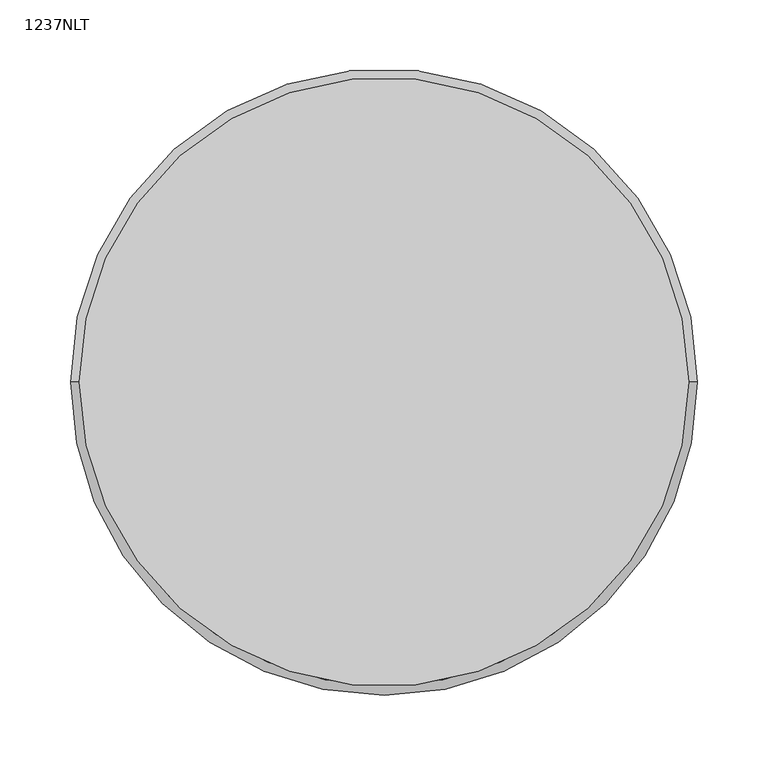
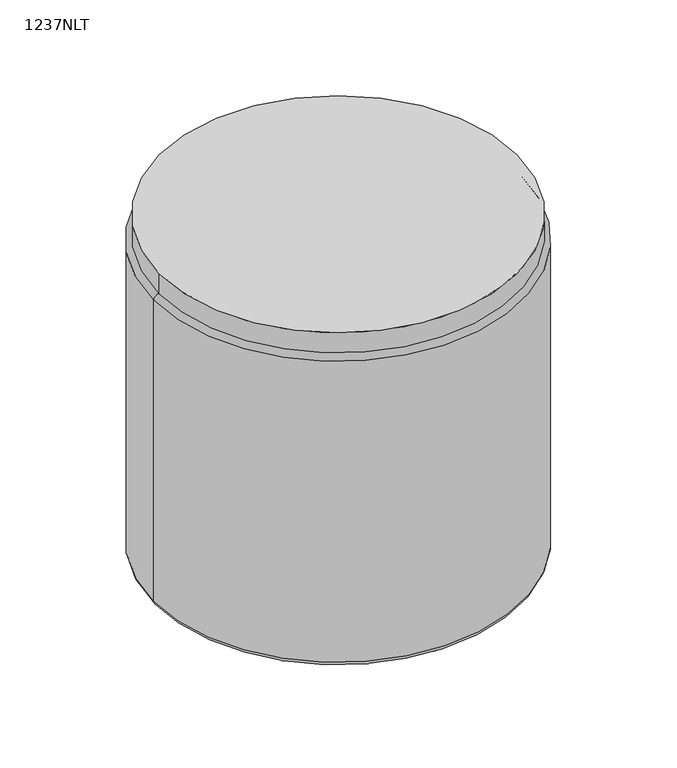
"""IFC4 building model written with IfcOpenShell, lengths in millimetres: furniture geometry, Laguna-Round_Ottomans-No_Legs-ERG : 1237NLT."""

from ifc_helpers import new_model, si_unit, point, frame, frame_2d, origin, place, context, project, spatial, circle_curve, ellipse_curve, trimmed, segment, composite_curve, outline, extrude, source, transform, mapped, element, save
from ifc_brep_helpers import plane_surface, cylinder_surface, revolved_surface, advanced_brep


def furniture_1237nlt_2b8f820f(model_context):
    return source(origin(), model_context, "Body", "SolidModel", [
        extrude(outline(composite_curve([segment(trimmed(circle_curve(frame_2d((-4662.7421763, 1234.1558502)), 215.9), [point((-4878.6421763, 1234.1558502))], [point((-4446.8421763, 1234.1558502))], False, "CARTESIAN"), True, "CONTINUOUS"), segment(trimmed(circle_curve(frame_2d((-4662.7421763, 1234.1558502)), 215.9), [point((-4446.8421763, 1234.1558502))], [point((-4878.6421763, 1234.1558502))], False, "CARTESIAN"), True, "CONTINUOUS")], self_intersect=False)), frame((0.0, 0.0, 406.4), z_axis=(0.0, 0.0, 1.0), x_axis=(1.0, 0.0, 0.0)), (0.0, 0.0, 1.0), 25.4),
        advanced_brep(
        [(-4472.2421763, 1234.1558502, 10.16), (-4476.4852245, 1234.1558502, 10.16), (-4467.9991282, 1234.1558502, 10.16), (-4458.1638229, 1234.1558502, 0.0), (-4486.3205297, 1234.1558502, 0.0), (-4472.2421763, 1234.1558502, 0.0), (-4458.1638229, 1234.1558502, 3.9615026), (-4486.3205297, 1234.1558502, 3.9615026), (-4467.9991282, 1234.1558502, 3.9615026), (-4476.4852245, 1234.1558502, 3.9615026)],
        [
            (0, 1),
            (1, 2, circle_curve(frame((-4472.2421763, 1234.1558502, 10.16), z_axis=(0.0, 0.0, 1.0), x_axis=(-1.0, 0.0, 0.0)), 4.2430482)),
            (2, 0),
            (2, 1, circle_curve(frame((-4472.2421763, 1234.1558502, 10.16), z_axis=(0.0, 0.0, 1.0), x_axis=(-1.0, 0.0, 0.0)), 4.2430482)),
            (3, 4, circle_curve(frame((-4472.2421763, 1234.1558502, 0.0), z_axis=(0.0, 0.0, -1.0), x_axis=(-1.0, 0.0, 0.0)), 14.0783534)),
            (4, 5),
            (5, 3),
            (4, 3, circle_curve(frame((-4472.2421763, 1234.1558502, 0.0), z_axis=(0.0, 0.0, -1.0), x_axis=(-1.0, 0.0, 0.0)), 14.0783534)),
            (6, 7, circle_curve(frame((-4472.2421763, 1234.1558502, 3.9615026), z_axis=(0.0, 0.0, -1.0), x_axis=(-1.0, 0.0, 0.0)), 14.0783534)),
            (7, 4),
            (3, 6),
            (7, 6, circle_curve(frame((-4472.2421763, 1234.1558502, 3.9615026), z_axis=(0.0, 0.0, -1.0), x_axis=(-1.0, 0.0, 0.0)), 14.0783534)),
            (8, 9, circle_curve(frame((-4472.2421763, 1234.1558502, 3.9615026), z_axis=(0.0, 0.0, -1.0), x_axis=(-1.0, 0.0, 0.0)), 4.2430482)),
            (9, 7),
            (6, 8),
            (9, 8, circle_curve(frame((-4472.2421763, 1234.1558502, 3.9615026), z_axis=(0.0, 0.0, -1.0), x_axis=(-1.0, 0.0, 0.0)), 4.2430482)),
            (1, 9),
            (8, 2),
        ],
        [
            plane_surface(frame((-4472.2421763, 1234.1558502, 10.16), z_axis=(0.0, 0.0, 1.0), x_axis=(-1.0, 0.0, 0.0))),
            plane_surface(frame((-4472.2421763, 1234.1558502, 0.0), z_axis=(0.0, 0.0, -1.0), x_axis=(-1.0, 0.0, 0.0))),
            cylinder_surface(frame((-4472.2421763, 1234.1558502, 80.01), z_axis=(0.0, 0.0, 1.0), x_axis=(-1.0, 0.0, 0.0)), 14.0783534),
            plane_surface(frame((-4472.2421763, 1234.1558502, 3.9615026), z_axis=(0.0, 0.0, 1.0), x_axis=(-1.0, 0.0, 0.0))),
            cylinder_surface(frame((-4472.2421763, 1234.1558502, 80.01), z_axis=(0.0, 0.0, 1.0), x_axis=(-1.0, 0.0, 0.0)), 4.2430482),
        ],
        [
            (0, [[1, 2, 3]]),
            (0, [[-3, 4, -1]]),
            (1, [[5, 6, 7]]),
            (1, [[8, -7, -6]]),
            (2, [[9, 10, -5, 11]]),
            (2, [[12, -11, -8, -10]]),
            (3, [[13, 14, -9, 15]]),
            (3, [[16, -15, -12, -14]]),
            (4, [[-2, 17, -13, 18]]),
            (4, [[-4, -18, -16, -17]]),
        ],
    ),
        advanced_brep(
        [(-4857.4852245, 1234.1558502, 3.9615026), (-4848.9991282, 1234.1558502, 3.9615026), (-4848.9991282, 1234.1558502, 10.16), (-4857.4852245, 1234.1558502, 10.16), (-4867.3205297, 1234.1558502, 3.9615026), (-4839.1638229, 1234.1558502, 3.9615026), (-4867.3205297, 1234.1558502, 0.0), (-4839.1638229, 1234.1558502, 0.0), (-4853.2421763, 1234.1558502, 0.0), (-4853.2421763, 1234.1558502, 10.16)],
        [
            (0, 1, circle_curve(frame((-4853.2421763, 1234.1558502, 3.9615026), z_axis=(0.0, 0.0, 1.0), x_axis=(1.0, 0.0, 0.0)), 4.2430482)),
            (1, 2),
            (2, 3, circle_curve(frame((-4853.2421763, 1234.1558502, 10.16), z_axis=(0.0, 0.0, -1.0), x_axis=(1.0, 0.0, 0.0)), 4.2430482)),
            (3, 0),
            (1, 0, circle_curve(frame((-4853.2421763, 1234.1558502, 3.9615026), z_axis=(0.0, 0.0, 1.0), x_axis=(1.0, 0.0, 0.0)), 4.2430482)),
            (3, 2, circle_curve(frame((-4853.2421763, 1234.1558502, 10.16), z_axis=(0.0, 0.0, -1.0), x_axis=(1.0, 0.0, 0.0)), 4.2430482)),
            (4, 5, circle_curve(frame((-4853.2421763, 1234.1558502, 3.9615026), z_axis=(0.0, 0.0, 1.0), x_axis=(1.0, 0.0, 0.0)), 14.0783534)),
            (5, 1),
            (0, 4),
            (5, 4, circle_curve(frame((-4853.2421763, 1234.1558502, 3.9615026), z_axis=(0.0, 0.0, 1.0), x_axis=(1.0, 0.0, 0.0)), 14.0783534)),
            (6, 7, circle_curve(frame((-4853.2421763, 1234.1558502, 0.0), z_axis=(0.0, 0.0, 1.0), x_axis=(1.0, 0.0, 0.0)), 14.0783534)),
            (7, 5),
            (4, 6),
            (7, 6, circle_curve(frame((-4853.2421763, 1234.1558502, 0.0), z_axis=(0.0, 0.0, 1.0), x_axis=(1.0, 0.0, 0.0)), 14.0783534)),
            (8, 7),
            (6, 8),
            (2, 9),
            (9, 3),
        ],
        [
            cylinder_surface(frame((-4853.2421763, 1234.1558502, 29.21), z_axis=(0.0, 0.0, -1.0), x_axis=(1.0, 0.0, 0.0)), 4.2430482),
            plane_surface(frame((-4853.2421763, 1234.1558502, 3.9615026), z_axis=(0.0, 0.0, 1.0), x_axis=(1.0, 0.0, 0.0))),
            cylinder_surface(frame((-4853.2421763, 1234.1558502, 29.21), z_axis=(0.0, 0.0, -1.0), x_axis=(1.0, 0.0, 0.0)), 14.0783534),
            plane_surface(frame((-4853.2421763, 1234.1558502, 0.0), z_axis=(0.0, 0.0, -1.0), x_axis=(1.0, 0.0, 0.0))),
            plane_surface(frame((-4853.2421763, 1234.1558502, 10.16), z_axis=(0.0, 0.0, 1.0), x_axis=(1.0, 0.0, 0.0))),
        ],
        [
            (0, [[1, 2, 3, 4]]),
            (0, [[5, -4, 6, -2]]),
            (1, [[7, 8, -1, 9]]),
            (1, [[10, -9, -5, -8]]),
            (2, [[11, 12, -7, 13]]),
            (2, [[14, -13, -10, -12]]),
            (3, [[15, -11, 16]]),
            (3, [[-16, -14, -15]]),
            (4, [[-3, 17, 18]]),
            (4, [[-6, -18, -17]]),
        ],
    ),
        advanced_brep(
        [(-4662.7421763, 1047.8988983, 3.9615026), (-4662.7421763, 1039.412802, 3.9615026), (-4662.7421763, 1039.412802, 10.16), (-4662.7421763, 1047.8988983, 10.16), (-4662.7421763, 1057.7342036, 3.9615026), (-4662.7421763, 1029.5774967, 3.9615026), (-4662.7421763, 1057.7342036, 0.0), (-4662.7421763, 1029.5774967, 0.0), (-4662.7421763, 1043.6558502, 0.0), (-4662.7421763, 1043.6558502, 10.16)],
        [
            (0, 1, circle_curve(frame((-4662.7421763, 1043.6558502, 3.9615026), z_axis=(0.0, 0.0, 1.0), x_axis=(0.0, -1.0, 0.0)), 4.2430482)),
            (1, 2),
            (2, 3, circle_curve(frame((-4662.7421763, 1043.6558502, 10.16), z_axis=(0.0, 0.0, -1.0), x_axis=(0.0, -1.0, 0.0)), 4.2430482)),
            (3, 0),
            (1, 0, circle_curve(frame((-4662.7421763, 1043.6558502, 3.9615026), z_axis=(0.0, 0.0, 1.0), x_axis=(0.0, -1.0, 0.0)), 4.2430482)),
            (3, 2, circle_curve(frame((-4662.7421763, 1043.6558502, 10.16), z_axis=(0.0, 0.0, -1.0), x_axis=(0.0, -1.0, 0.0)), 4.2430482)),
            (4, 5, circle_curve(frame((-4662.7421763, 1043.6558502, 3.9615026), z_axis=(0.0, 0.0, 1.0), x_axis=(0.0, -1.0, 0.0)), 14.0783534)),
            (5, 1),
            (0, 4),
            (5, 4, circle_curve(frame((-4662.7421763, 1043.6558502, 3.9615026), z_axis=(0.0, 0.0, 1.0), x_axis=(0.0, -1.0, 0.0)), 14.0783534)),
            (6, 7, circle_curve(frame((-4662.7421763, 1043.6558502, 0.0), z_axis=(0.0, 0.0, 1.0), x_axis=(0.0, -1.0, 0.0)), 14.0783534)),
            (7, 5),
            (4, 6),
            (7, 6, circle_curve(frame((-4662.7421763, 1043.6558502, 0.0), z_axis=(0.0, 0.0, 1.0), x_axis=(0.0, -1.0, 0.0)), 14.0783534)),
            (8, 7),
            (6, 8),
            (2, 9),
            (9, 3),
        ],
        [
            cylinder_surface(frame((-4662.7421763, 1043.6558502, 39.775957), z_axis=(0.0, 0.0, -1.0), x_axis=(0.0, -1.0, 0.0)), 4.2430482),
            plane_surface(frame((-4662.7421763, 1043.6558502, 3.9615026), z_axis=(0.0, 0.0, 1.0), x_axis=(0.0, -1.0, 0.0))),
            cylinder_surface(frame((-4662.7421763, 1043.6558502, 39.775957), z_axis=(0.0, 0.0, -1.0), x_axis=(0.0, -1.0, 0.0)), 14.0783534),
            plane_surface(frame((-4662.7421763, 1043.6558502, 0.0), z_axis=(0.0, 0.0, -1.0), x_axis=(0.0, -1.0, 0.0))),
            plane_surface(frame((-4662.7421763, 1043.6558502, 10.16), z_axis=(0.0, 0.0, 1.0), x_axis=(0.0, -1.0, 0.0))),
        ],
        [
            (0, [[1, 2, 3, 4]]),
            (0, [[5, -4, 6, -2]]),
            (1, [[7, 8, -1, 9]]),
            (1, [[10, -9, -5, -8]]),
            (2, [[11, 12, -7, 13]]),
            (2, [[14, -13, -10, -12]]),
            (3, [[15, -11, 16]]),
            (3, [[-16, -14, -15]]),
            (4, [[-3, 17, 18]]),
            (4, [[-6, -18, -17]]),
        ],
    ),
        advanced_brep(
        [(-4662.7421763, 1428.8988983, 3.9615026), (-4662.7421763, 1420.412802, 3.9615026), (-4662.7421763, 1420.412802, 10.16), (-4662.7421763, 1428.8988983, 10.16), (-4662.7421763, 1438.7342036, 3.9615026), (-4662.7421763, 1410.5774967, 3.9615026), (-4662.7421763, 1438.7342036, 0.0), (-4662.7421763, 1410.5774967, 0.0), (-4662.7421763, 1424.6558502, 0.0), (-4662.7421763, 1424.6558502, 10.16)],
        [
            (0, 1, circle_curve(frame((-4662.7421763, 1424.6558502, 3.9615026), z_axis=(0.0, 0.0, 1.0), x_axis=(0.0, -1.0, 0.0)), 4.2430482)),
            (1, 2),
            (2, 3, circle_curve(frame((-4662.7421763, 1424.6558502, 10.16), z_axis=(0.0, 0.0, -1.0), x_axis=(0.0, -1.0, 0.0)), 4.2430482)),
            (3, 0),
            (1, 0, circle_curve(frame((-4662.7421763, 1424.6558502, 3.9615026), z_axis=(0.0, 0.0, 1.0), x_axis=(0.0, -1.0, 0.0)), 4.2430482)),
            (3, 2, circle_curve(frame((-4662.7421763, 1424.6558502, 10.16), z_axis=(0.0, 0.0, -1.0), x_axis=(0.0, -1.0, 0.0)), 4.2430482)),
            (4, 5, circle_curve(frame((-4662.7421763, 1424.6558502, 3.9615026), z_axis=(0.0, 0.0, 1.0), x_axis=(0.0, -1.0, 0.0)), 14.0783534)),
            (5, 1),
            (0, 4),
            (5, 4, circle_curve(frame((-4662.7421763, 1424.6558502, 3.9615026), z_axis=(0.0, 0.0, 1.0), x_axis=(0.0, -1.0, 0.0)), 14.0783534)),
            (6, 7, circle_curve(frame((-4662.7421763, 1424.6558502, 0.0), z_axis=(0.0, 0.0, 1.0), x_axis=(0.0, -1.0, 0.0)), 14.0783534)),
            (7, 5),
            (4, 6),
            (7, 6, circle_curve(frame((-4662.7421763, 1424.6558502, 0.0), z_axis=(0.0, 0.0, 1.0), x_axis=(0.0, -1.0, 0.0)), 14.0783534)),
            (8, 7),
            (6, 8),
            (2, 9),
            (9, 3),
        ],
        [
            cylinder_surface(frame((-4662.7421763, 1424.6558502, 48.26), z_axis=(0.0, 0.0, -1.0), x_axis=(0.0, -1.0, 0.0)), 4.2430482),
            plane_surface(frame((-4662.7421763, 1424.6558502, 3.9615026), z_axis=(0.0, 0.0, 1.0), x_axis=(0.0, -1.0, 0.0))),
            cylinder_surface(frame((-4662.7421763, 1424.6558502, 48.26), z_axis=(0.0, 0.0, -1.0), x_axis=(0.0, -1.0, 0.0)), 14.0783534),
            plane_surface(frame((-4662.7421763, 1424.6558502, 0.0), z_axis=(0.0, 0.0, -1.0), x_axis=(0.0, -1.0, 0.0))),
            plane_surface(frame((-4662.7421763, 1424.6558502, 10.16), z_axis=(0.0, 0.0, 1.0), x_axis=(0.0, -1.0, 0.0))),
        ],
        [
            (0, [[1, 2, 3, 4]]),
            (0, [[5, -4, 6, -2]]),
            (1, [[7, 8, -1, 9]]),
            (1, [[10, -9, -5, -8]]),
            (2, [[11, 12, -7, 13]]),
            (2, [[14, -13, -10, -12]]),
            (3, [[15, -11, 16]]),
            (3, [[-16, -14, -15]]),
            (4, [[-3, 17, 18]]),
            (4, [[-6, -18, -17]]),
        ],
    ),
        advanced_brep(
        [(-4440.481116, 1234.1558502, 399.8831003), (-4885.0032366, 1234.1558502, 399.8831003), (-4885.0032366, 1234.1558502, 16.6768997), (-4440.481116, 1234.1558502, 16.6768997), (-4447.4439761, 1234.1558502, 406.4), (-4878.0403765, 1234.1558502, 406.4), (-4878.0403765, 1234.1558502, 10.16), (-4447.4439761, 1234.1558502, 10.16)],
        [
            (0, 1, circle_curve(frame((-4662.7421763, 1234.1558502, 399.8831003), z_axis=(0.0, 0.0, -1.0), x_axis=(-1.0, 0.0, 0.0)), 222.2610603)),
            (1, 2, circle_curve(frame((-1992.4401763, 1234.1558502, 208.28), z_axis=(0.0, -1.0, 0.0), x_axis=(1.0, 0.0, 0.0)), 2898.902)),
            (2, 3, circle_curve(frame((-4662.7421763, 1234.1558502, 16.6768997), z_axis=(0.0, 0.0, 1.0), x_axis=(-1.0, 0.0, 0.0)), 222.2610603)),
            (3, 0, circle_curve(frame((-7333.0441763, 1234.1558502, 208.28), z_axis=(0.0, -1.0, 0.0), x_axis=(-1.0, 0.0, 0.0)), 2898.902)),
            (0, 4, circle_curve(frame((-4447.4439761, 1234.1558502, 399.4218811), z_axis=(0.0, -1.0, 0.0), x_axis=(-1.0, 0.0, 0.0)), 6.9781189)),
            (4, 5, circle_curve(frame((-4662.7421763, 1234.1558502, 406.4), z_axis=(0.0, 0.0, -1.0), x_axis=(-1.0, 0.0, 0.0)), 215.2982002)),
            (5, 1, circle_curve(frame((-4878.0403765, 1234.1558502, 399.4218811), z_axis=(0.0, -1.0, 0.0), x_axis=(1.0, 0.0, 0.0)), 6.9781189)),
            (2, 6, circle_curve(frame((-4878.0403765, 1234.1558502, 17.1381189), z_axis=(0.0, -1.0, 0.0), x_axis=(1.0, 0.0, 0.0)), 6.9781189)),
            (6, 7, circle_curve(frame((-4662.7421763, 1234.1558502, 10.16), z_axis=(0.0, 0.0, 1.0), x_axis=(-1.0, 0.0, 0.0)), 215.2982002)),
            (7, 3, circle_curve(frame((-4447.4439761, 1234.1558502, 17.1381189), z_axis=(0.0, -1.0, 0.0), x_axis=(-1.0, 0.0, 0.0)), 6.9781189)),
            (1, 0, circle_curve(frame((-4662.7421763, 1234.1558502, 399.8831003), z_axis=(0.0, 0.0, -1.0), x_axis=(1.0, 0.0, 0.0)), 222.2610603)),
            (3, 2, circle_curve(frame((-4662.7421763, 1234.1558502, 16.6768997), z_axis=(0.0, 0.0, 1.0), x_axis=(1.0, 0.0, 0.0)), 222.2610603)),
            (5, 4, circle_curve(frame((-4662.7421763, 1234.1558502, 406.4), z_axis=(0.0, 0.0, -1.0), x_axis=(1.0, 0.0, 0.0)), 215.2982002)),
            (7, 6, circle_curve(frame((-4662.7421763, 1234.1558502, 10.16), z_axis=(0.0, 0.0, 1.0), x_axis=(1.0, 0.0, 0.0)), 215.2982002)),
        ],
        [
            revolved_surface(trimmed(ellipse_curve(frame((-1992.4401763, 1234.1558502, 208.28), z_axis=(0.0, 1.0, 0.0), x_axis=(1.0, 0.0, 0.0)), 2898.902, 2898.902), [point((-4885.0032366, 1234.1558502, 16.6768997))], [point((-4885.0032366, 1234.1558502, 399.8831003))], True, "CARTESIAN"), (-4662.7421763, 1234.1558502, 0.0), (0.0, 0.0, 1.0)),
            revolved_surface(trimmed(ellipse_curve(frame((-4878.0403765, 1234.1558502, 399.4218811), z_axis=(0.0, 1.0, 0.0), x_axis=(1.0, 0.0, 0.0)), 6.9781189, 6.9781189), [point((-4885.0032366, 1234.1558502, 399.8831003))], [point((-4878.0403765, 1234.1558502, 406.4))], True, "CARTESIAN"), (-4662.7421763, 1234.1558502, 0.0), (0.0, 0.0, 1.0)),
            revolved_surface(trimmed(ellipse_curve(frame((-4878.0403765, 1234.1558502, 17.1381189), z_axis=(0.0, 1.0, 0.0), x_axis=(1.0, 0.0, 0.0)), 6.9781189, 6.9781189), [point((-4878.0403765, 1234.1558502, 10.16))], [point((-4885.0032366, 1234.1558502, 16.6768997))], True, "CARTESIAN"), (-4662.7421763, 1234.1558502, 0.0), (0.0, 0.0, 1.0)),
            revolved_surface(trimmed(ellipse_curve(frame((-7333.0441763, 1234.1558502, 208.28), z_axis=(0.0, -1.0, 0.0), x_axis=(-1.0, 0.0, 0.0)), 2898.902, 2898.902), [point((-4440.481116, 1234.1558502, 16.6768997))], [point((-4440.481116, 1234.1558502, 399.8831003))], True, "CARTESIAN"), (-4662.7421763, 1234.1558502, 0.0), (0.0, 0.0, 1.0)),
            revolved_surface(trimmed(ellipse_curve(frame((-4447.4439761, 1234.1558502, 399.4218811), z_axis=(0.0, -1.0, 0.0), x_axis=(-1.0, 0.0, 0.0)), 6.9781189, 6.9781189), [point((-4440.481116, 1234.1558502, 399.8831003))], [point((-4447.4439761, 1234.1558502, 406.4))], True, "CARTESIAN"), (-4662.7421763, 1234.1558502, 0.0), (0.0, 0.0, 1.0)),
            revolved_surface(trimmed(ellipse_curve(frame((-4447.4439761, 1234.1558502, 17.1381189), z_axis=(0.0, -1.0, 0.0), x_axis=(-1.0, 0.0, 0.0)), 6.9781189, 6.9781189), [point((-4447.4439761, 1234.1558502, 10.16))], [point((-4440.481116, 1234.1558502, 16.6768997))], True, "CARTESIAN"), (-4662.7421763, 1234.1558502, 0.0), (0.0, 0.0, 1.0)),
            plane_surface(frame((-4447.4439761, 1234.1558502, 406.4), z_axis=(0.0, 0.0, 1.0), x_axis=(0.0, 1.0, 0.0))),
            plane_surface(frame((-4447.4439761, 1234.1558502, 10.16), z_axis=(0.0, 0.0, -1.0), x_axis=(0.0, -1.0, 0.0))),
        ],
        [
            (0, [[1, 2, 3, 4]]),
            (1, [[-1, 5, 6, 7]]),
            (2, [[-3, 8, 9, 10]]),
            (3, [[-2, 11, -4, 12]]),
            (4, [[-7, 13, -5, -11]]),
            (5, [[-8, -12, -10, 14]]),
            (6, [[-6, -13]]),
            (7, [[-9, -14]]),
        ],
    ),
    ])


if __name__ == "__main__":
    model = new_model("IFC4")
    model_context = context("Model", 3, world=origin())
    ifc_project = project(units=[si_unit("LENGTHUNIT", "METRE", prefix="MILLI")], contexts=[model_context])
    site = spatial("IfcSite", under=ifc_project)
    building = spatial("IfcBuilding", under=site)
    placement = place(None, origin())
    furniture_1237nlt_shape = furniture_1237nlt_2b8f820f(model_context)
    element("IfcFurniture", 1, ObjectType="Laguna-Round_Ottomans-No_Legs-ERG : 1237NLT", at=placement, inside=building, context=model_context, shape_type="MappedRepresentation", body=[
        mapped(furniture_1237nlt_shape, transform((0.0, 0.0, 0.0), x_axis=(1.0, 0.0, 0.0), y_axis=(0.0, 1.0, 0.0), z_axis=(0.0, 0.0, 1.0))),
    ])
    save(model, "model.ifc")
